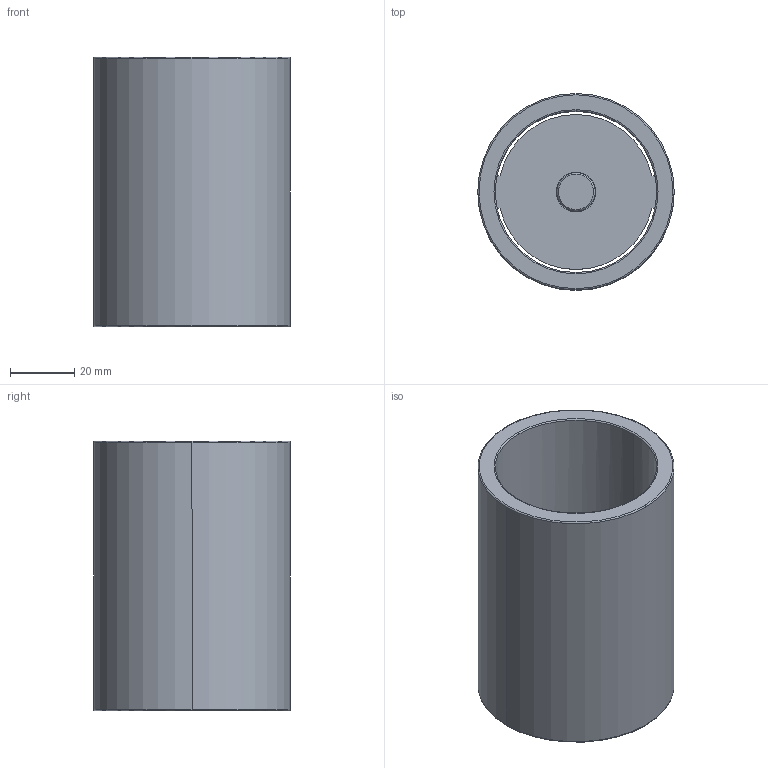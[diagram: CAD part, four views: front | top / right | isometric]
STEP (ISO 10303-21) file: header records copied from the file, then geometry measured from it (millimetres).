
FILE_DESCRIPTION((''),'2;1');
FILE_NAME('C11_050_084.stp','2009-01-12T09:45:39',(''),(''),'Mechanical Desktop 2009','Mechanical Desktop 2009',', , ');
FILE_SCHEMA(('CONFIG_CONTROL_DESIGN'));
Length unit declared in the file: millimetre
Products named in the file (2): Product; blmdl1
Assembly tree (1 placements, depth 2):
  Product
    blmdl1
Bounding box: 61.25 x 61.25 x 84 mm (x, y, z)
Volume: 87496.9 mm3; surface area: 37609.5 mm2
Topology: 3 solids, 3 shells, 44 faces, 110 edges, 74 vertices
Faces by surface type: cylinder 16, plane 16, torus 10, cone 2
Entity records: 1507 total; most frequent: CARTESIAN_POINT 274, DIRECTION 266, ORIENTED_EDGE 220, AXIS2_PLACEMENT_3D 114, EDGE_CURVE 110, VERTEX_POINT 74, CIRCLE 68, EDGE_LOOP 50
